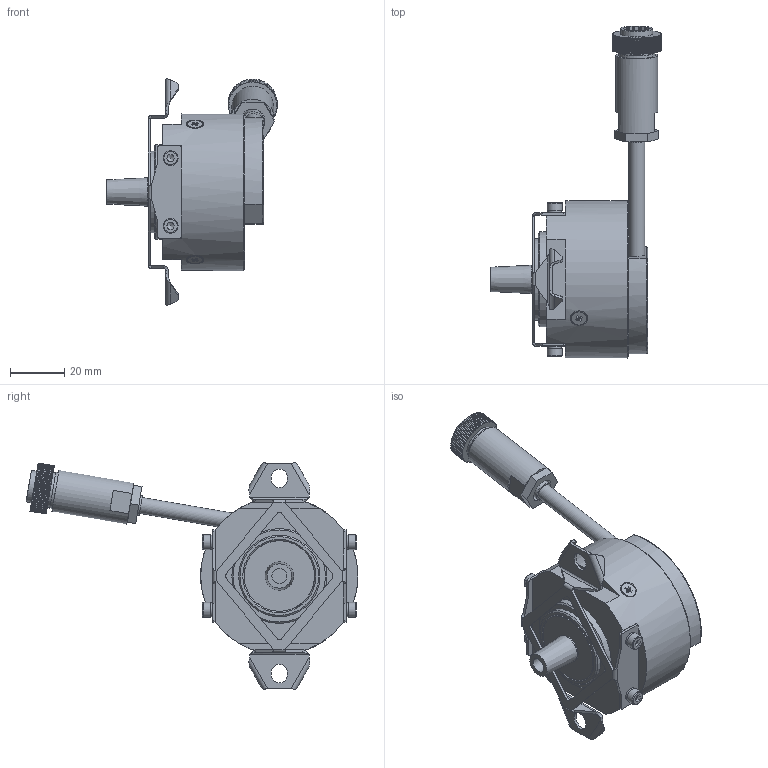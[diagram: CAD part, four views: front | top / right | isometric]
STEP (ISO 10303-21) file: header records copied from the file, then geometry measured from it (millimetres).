
FILE_DESCRIPTION(('STEP AP242'), '1');
FILE_NAME('ﾄﾌﾘﾊ.401269.006 ﾝ渼鮏褞 ﾈﾄﾌ58_ver 2', '', ('UNSPECIFIED'), ('UNSPECIFIED'), 'C3D Converter', 'C3D Toolkit', '');
FILE_SCHEMA(('AP242_MANAGED_MODEL_BASED_3D_ENGINEERING_MIM_LF { 1 0 10303 442 1 1 4 }'));
Length unit declared in the file: millimetre
Products named in the file (1): ДМШК.401269.006
Bounding box: 62.79 x 122.43 x 83.45 mm (x, y, z)
Volume: 71793.4 mm3; surface area: 41554.3 mm2
Topology: 3 solids, 6 shells, 818 faces, 2064 edges, 1314 vertices
Faces by surface type: plane 488, cylinder 252, cone 40, bspline 22, torus 10, sphere 6
Full cylindrical faces by diameter (mm): 0.02 x4, 0.625 x1, 0.8 x8, 0.9 x12, 1 x20, 2.459 x4, 3 x8, 3.01 x4, 3.4 x4, 5 x4, 5.5 x5, 5.6 x3, 5.9 x2, 6 x1, 7.3 x2, 8.7 x1, 9 x3, 10 x2, 10.1 x2, 10.5 x1, 10.917 x1, 11 x1, 11.8 x1, 12 x2, 13 x2, 13.5 x1, 15.4 x1, 18 x1, 26 x2, 30 x2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
Entity records: 35150 total; most frequent: CARTESIAN_POINT 9370, DIRECTION 3915, ORIENTED_EDGE 3779, EDGE_CURVE 1890, AXIS2_PLACEMENT_3D 1386, VERTEX_POINT 1306, LINE 1143, VECTOR 1143
